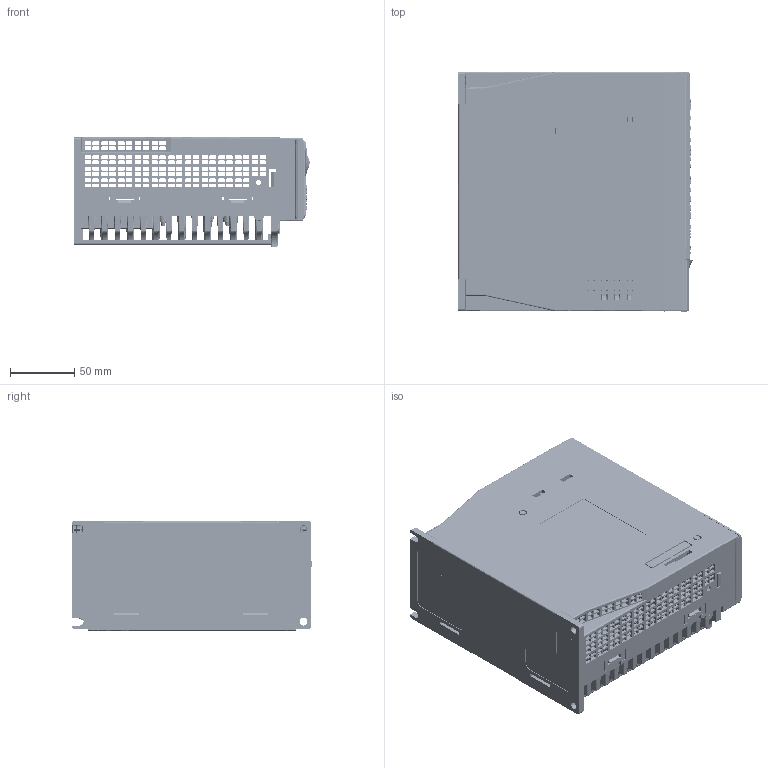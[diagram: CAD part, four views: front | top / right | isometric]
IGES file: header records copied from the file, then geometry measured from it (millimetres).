
Start section: SolidWorks IGES file using analytic representation for surfaces
Global section: file name: Z:\Products\Servo\Servo Drive\PRONET-08AEG-EC\UMD-000[7-10]C-B3 CAD Files\UMD-000[7-10]C-B3.IGS; native system: SolidWorks 2017; preprocessor: SolidWorks 2017; author: laorb; date: 190417.151306; units: millimetre
Bounding box: 182.88 x 186.7 x 85 mm (x, y, z)
Surface area: 289902.7 mm2 (no closed solid volume)
Topology: 0 solids, 0 shells, 6433 faces, 59194 edges, 59153 vertices
Faces by surface type: bspline 4043, revolution 2390
